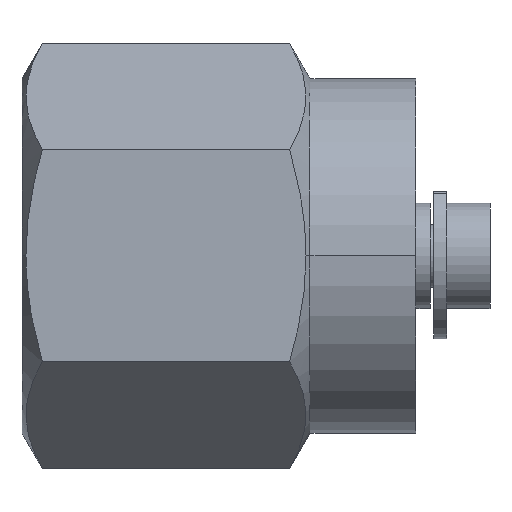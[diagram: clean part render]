
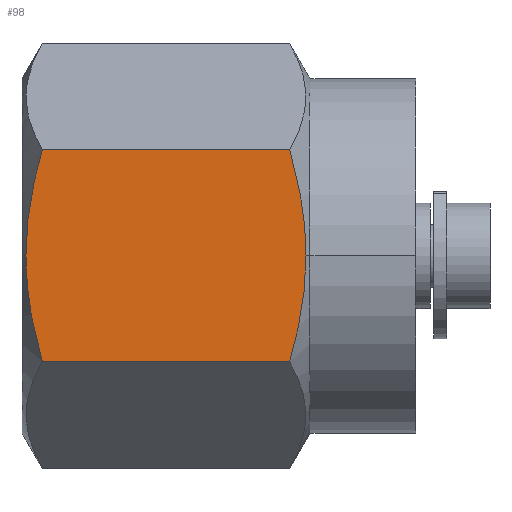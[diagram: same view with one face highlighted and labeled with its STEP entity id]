
A CAD part, top view. The second image highlights one B-rep face of the part: STEP entity #98.
In plain terms, the highlighted planar face has unit normal (0, 0, 1).
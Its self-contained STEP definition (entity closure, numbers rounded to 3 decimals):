
#6 = EDGE_CURVE ( 'NONE', #39, #7, #710, .T. ) ;
#7 = VERTEX_POINT ( 'NONE', #709 ) ;
#39 = VERTEX_POINT ( 'NONE', #787 ) ;
#62 = VERTEX_POINT ( 'NONE', #834 ) ;
#64 = EDGE_CURVE ( 'NONE', #62, #65, #833, .T. ) ;
#65 = VERTEX_POINT ( 'NONE', #832 ) ;
#92 = EDGE_CURVE ( 'NONE', #100, #114, #915, .T. ) ;
#93 = EDGE_LOOP ( 'NONE', ( #102, #103, #105, #106, #108, #109 ) ) ;
#98 = ADVANCED_FACE ( 'NONE', ( #910 ), #946, .F. ) ;
#100 = VERTEX_POINT ( 'NONE', #933 ) ;
#102 = ORIENTED_EDGE ( 'NONE', *, *, #6, .F. ) ;
#103 = ORIENTED_EDGE ( 'NONE', *, *, #104, .F. ) ;
#104 = EDGE_CURVE ( 'NONE', #65, #39, #930, .T. ) ;
#105 = ORIENTED_EDGE ( 'NONE', *, *, #64, .F. ) ;
#106 = ORIENTED_EDGE ( 'NONE', *, *, #107, .F. ) ;
#107 = EDGE_CURVE ( 'NONE', #100, #62, #926, .T. ) ;
#108 = ORIENTED_EDGE ( 'NONE', *, *, #92, .T. ) ;
#109 = ORIENTED_EDGE ( 'NONE', *, *, #110, .F. ) ;
#110 = EDGE_CURVE ( 'NONE', #7, #114, #979, .T. ) ;
#114 = VERTEX_POINT ( 'NONE', #970 ) ;
#694 = CARTESIAN_POINT ( 'NONE',  ( 0.118, -0.543, 5.555 ) ) ;
#695 = CARTESIAN_POINT ( 'NONE',  ( 0.165, -1.081, 5.555 ) ) ;
#696 = CARTESIAN_POINT ( 'NONE',  ( 0.338, -2.151, 5.555 ) ) ;
#697 = CARTESIAN_POINT ( 'NONE',  ( 0.464, -2.685, 5.555 ) ) ;
#698 = CARTESIAN_POINT ( 'NONE',  ( 0.615, -3.207, 5.555 ) ) ;
#709 = CARTESIAN_POINT ( 'NONE',  ( 0.118, 0., 5.555 ) ) ;
#710 = B_SPLINE_CURVE_WITH_KNOTS ( 'NONE', 3,
 ( #698, #697, #696, #695, #694, #744 ),
 .UNSPECIFIED., .F., .F.,
 ( 4, 2, 4 ),
 ( 0.006, 0.008, 0.009 ),
 .UNSPECIFIED. ) ;
#744 = CARTESIAN_POINT ( 'NONE',  ( 0.118, 0., 5.555 ) ) ;
#787 = CARTESIAN_POINT ( 'NONE',  ( 0.615, -3.207, 5.555 ) ) ;
#826 = CARTESIAN_POINT ( 'NONE',  ( 8.085, -3.207, 5.555 ) ) ;
#827 = CARTESIAN_POINT ( 'NONE',  ( 8.236, -2.685, 5.555 ) ) ;
#828 = CARTESIAN_POINT ( 'NONE',  ( 8.362, -2.151, 5.555 ) ) ;
#829 = CARTESIAN_POINT ( 'NONE',  ( 8.535, -1.081, 5.555 ) ) ;
#830 = CARTESIAN_POINT ( 'NONE',  ( 8.582, -0.542, 5.555 ) ) ;
#831 = CARTESIAN_POINT ( 'NONE',  ( 8.582, 0., 5.555 ) ) ;
#832 = CARTESIAN_POINT ( 'NONE',  ( 8.085, -3.207, 5.555 ) ) ;
#833 = B_SPLINE_CURVE_WITH_KNOTS ( 'NONE', 3,
 ( #831, #830, #829, #828, #827, #826 ),
 .UNSPECIFIED., .F., .F.,
 ( 4, 2, 4 ),
 ( 0.024, 0.025, 0.027 ),
 .UNSPECIFIED. ) ;
#834 = CARTESIAN_POINT ( 'NONE',  ( 8.582, 0., 5.555 ) ) ;
#910 = FACE_OUTER_BOUND ( 'NONE', #93, .T. ) ;
#912 = DIRECTION ( 'NONE',  ( -1., 0., 0. ) ) ;
#913 = VECTOR ( 'NONE', #912, 1000. ) ;
#914 = CARTESIAN_POINT ( 'NONE',  ( 11.9, 3.207, 5.555 ) ) ;
#915 = LINE ( 'NONE', #914, #913 ) ;
#926 = B_SPLINE_CURVE_WITH_KNOTS ( 'NONE', 3,
 ( #985, #984, #983, #982, #981, #980 ),
 .UNSPECIFIED., .F., .F.,
 ( 4, 2, 4 ),
 ( 0.02, 0.022, 0.024 ),
 .UNSPECIFIED. ) ;
#927 = DIRECTION ( 'NONE',  ( -1., 0., 0. ) ) ;
#928 = VECTOR ( 'NONE', #927, 1000. ) ;
#929 = CARTESIAN_POINT ( 'NONE',  ( 11.9, -3.207, 5.555 ) ) ;
#930 = LINE ( 'NONE', #929, #928 ) ;
#931 = DIRECTION ( 'NONE',  ( -1., 0., 0. ) ) ;
#932 = DIRECTION ( 'NONE',  ( 0., 0., -1. ) ) ;
#933 = CARTESIAN_POINT ( 'NONE',  ( 8.085, 3.207, 5.555 ) ) ;
#944 = CARTESIAN_POINT ( 'NONE',  ( 11.9, 3.207, 5.555 ) ) ;
#945 = AXIS2_PLACEMENT_3D ( 'NONE', #944, #932, #931 ) ;
#946 = PLANE ( 'NONE',  #945 ) ;
#970 = CARTESIAN_POINT ( 'NONE',  ( 0.615, 3.207, 5.555 ) ) ;
#971 = CARTESIAN_POINT ( 'NONE',  ( 0.615, 3.207, 5.555 ) ) ;
#972 = CARTESIAN_POINT ( 'NONE',  ( 0.465, 2.688, 5.555 ) ) ;
#973 = CARTESIAN_POINT ( 'NONE',  ( 0.34, 2.163, 5.555 ) ) ;
#974 = CARTESIAN_POINT ( 'NONE',  ( 0.166, 1.093, 5.555 ) ) ;
#975 = CARTESIAN_POINT ( 'NONE',  ( 0.118, 0.543, 5.555 ) ) ;
#976 = CARTESIAN_POINT ( 'NONE',  ( 0.118, 0., 5.555 ) ) ;
#979 = B_SPLINE_CURVE_WITH_KNOTS ( 'NONE', 3,
 ( #976, #975, #974, #973, #972, #971 ),
 .UNSPECIFIED., .F., .F.,
 ( 4, 2, 4 ),
 ( 0.009, 0.011, 0.012 ),
 .UNSPECIFIED. ) ;
#980 = CARTESIAN_POINT ( 'NONE',  ( 8.582, 0., 5.555 ) ) ;
#981 = CARTESIAN_POINT ( 'NONE',  ( 8.582, 0.543, 5.555 ) ) ;
#982 = CARTESIAN_POINT ( 'NONE',  ( 8.534, 1.093, 5.555 ) ) ;
#983 = CARTESIAN_POINT ( 'NONE',  ( 8.36, 2.163, 5.555 ) ) ;
#984 = CARTESIAN_POINT ( 'NONE',  ( 8.235, 2.688, 5.555 ) ) ;
#985 = CARTESIAN_POINT ( 'NONE',  ( 8.085, 3.207, 5.555 ) ) ;
